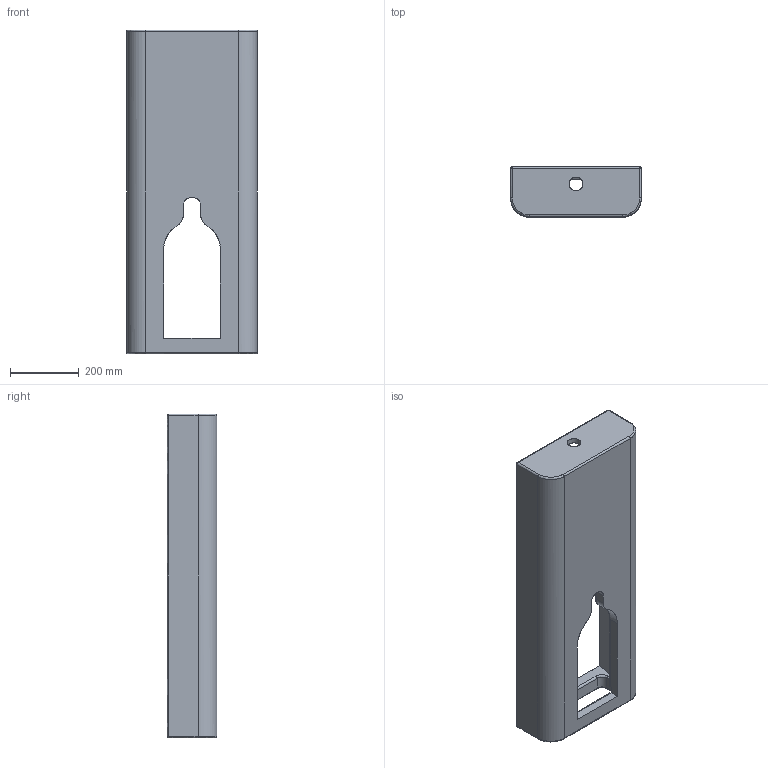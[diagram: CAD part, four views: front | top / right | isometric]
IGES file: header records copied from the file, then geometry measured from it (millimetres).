
Start section: C
Global section: file name: Planet cassetta a muro (8404).igs; native system:  By UGS Corp.; preprocessor: XPlus GENERIC/IGES 3.0; author: Author; organization: Title; date: 20120326.121651; units: millimetre
Bounding box: 380 x 145 x 940 mm (x, y, z)
Surface area: 1219951.3 mm2 (no closed solid volume)
Topology: 0 solids, 0 shells, 132 faces, 650 edges, 646 vertices
Faces by surface type: bspline 132
